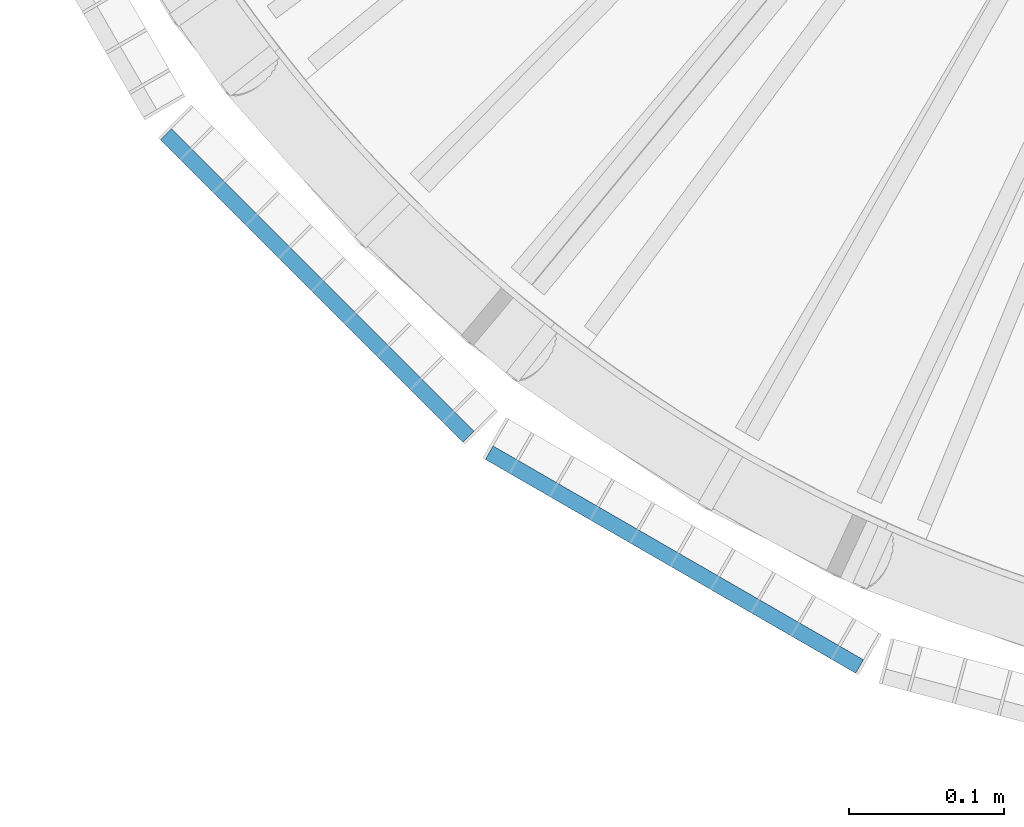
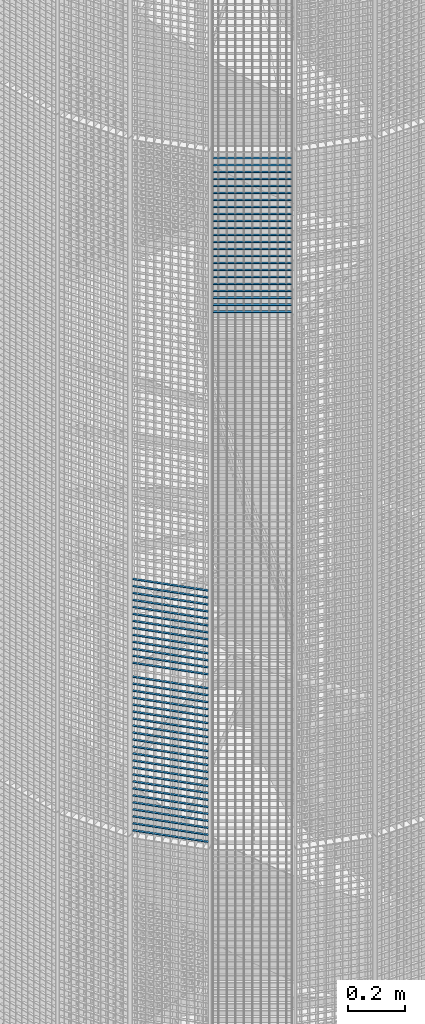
# One storey, part 358 of 1183: 59 beams, 2 elements without a shape of their own.
"""IFC2X3 building model written with IfcOpenShell, lengths in millimetres."""

import ifcopenshell
import ifcopenshell.guid

model = None  # the IFC model being written
_history = None  # IfcOwnerHistory: only IFC2X3 demands one
_inside = {}  # id of a spatial element -> (the spatial element, [elements in it])
_under = {}  # id of a project, library or spatial element -> (it, [spatial elements below it])
_declared = {}  # id of a project -> (the project, [libraries it declares])
_typed = {}  # id of a type object -> (the type object, [elements of that type])
_made_of = {}  # id of a material, layer set ... -> (it, [elements and type objects made of it])


def new_model(schema):
    """Start an empty IFC model of exactly this schema.

    Asked for "IFC4X3", IfcOpenShell would pick the latest addendum, in which some entities
    have other attributes; the version numbers below select the first issue.
    IFC2X3 requires an IfcOwnerHistory on every rooted entity: one is made here for all.
    """
    global model, _history
    if schema == "IFC4X3":
        model = ifcopenshell.file(schema_version=(4, 3, 0, 0))
    else:
        model = ifcopenshell.file(schema=schema)
    _inside.clear()
    _under.clear()
    _declared.clear()
    _typed.clear()
    _made_of.clear()
    _history = None
    if model.schema == "IFC2X3":
        org = make("IfcOrganization", Name="unknown")
        user = make(
            "IfcPersonAndOrganization",
            ThePerson=make("IfcPerson", FamilyName="unknown"),
            TheOrganization=org,
        )
        app = make(
            "IfcApplication",
            ApplicationDeveloper=org,
            Version="unknown",
            ApplicationFullName="unknown",
            ApplicationIdentifier="unknown",
        )
        _history = make(
            "IfcOwnerHistory",
            OwningUser=user,
            OwningApplication=app,
            ChangeAction="ADDED",
            CreationDate=0,
        )
    return model


def make(cls, **values):
    """One entity of the class cls with the attributes given. An attribute that is None is left unset."""
    return model.create_entity(
        cls, **{name: value for name, value in values.items() if value is not None}
    )


def rooted(cls, **values):
    """An entity with a GlobalId (a new one), such as an element, a storey or a relation."""
    return make(cls, GlobalId=ifcopenshell.guid.new(), OwnerHistory=_history, **values)


def si_unit(unit_type, name, prefix=None):
    """IfcSIUnit, for example si_unit("LENGTHUNIT", "METRE", prefix="MILLI")."""
    return make("IfcSIUnit", UnitType=unit_type, Prefix=prefix, Name=name)


def assignment(units):
    """IfcUnitAssignment: the units of a project."""
    return None if units is None else make("IfcUnitAssignment", Units=units)


def point(xyz):
    """IfcCartesianPoint."""
    return None if xyz is None else make("IfcCartesianPoint", Coordinates=xyz)


def direction(xyz):
    """IfcDirection."""
    return None if xyz is None else make("IfcDirection", DirectionRatios=xyz)


def frame(location, z_axis=None, x_axis=None):
    """IfcAxis2Placement3D, a coordinate frame: its origin and axes. An axis left out is left unset."""
    return make(
        "IfcAxis2Placement3D",
        Location=point(location),
        Axis=direction(z_axis),
        RefDirection=direction(x_axis),
    )


def frame_2d(location, x_axis=None):
    """IfcAxis2Placement2D, a coordinate frame in the plane: its origin and x axis."""
    return make(
        "IfcAxis2Placement2D", Location=point(location), RefDirection=direction(x_axis)
    )


def origin_with_axes():
    """The frame at (0, 0, 0) with the z axis (0, 0, 1) and the x axis (1, 0, 0) written out."""
    return frame((0.0, 0.0, 0.0), z_axis=(0.0, 0.0, 1.0), x_axis=(1.0, 0.0, 0.0))


def origin_2d_with_axis():
    """The frame at (0, 0) in the plane with the x axis (1, 0) written out."""
    return frame_2d((0.0, 0.0), x_axis=(1.0, 0.0))


def place(relative_to, where):
    """IfcLocalPlacement: puts the frame where relative to a parent placement (None: the world)."""
    return make(
        "IfcLocalPlacement", PlacementRelTo=relative_to, RelativePlacement=where
    )


def context(
    kind, dimensions, precision=None, world=None, true_north=None, identifier=None
):
    """IfcGeometricRepresentationContext, for example the 3D "Model" context."""
    return make(
        "IfcGeometricRepresentationContext",
        ContextIdentifier=identifier,
        ContextType=kind,
        CoordinateSpaceDimension=dimensions,
        Precision=precision,
        WorldCoordinateSystem=world,
        TrueNorth=true_north,
    )


def subcontext(parent, identifier, kind, view, scale=None):
    """IfcGeometricRepresentationSubContext, for example "Body" below "Model"."""
    return make(
        "IfcGeometricRepresentationSubContext",
        ContextIdentifier=identifier,
        ContextType=kind,
        ParentContext=parent,
        TargetScale=scale,
        TargetView=view,
    )


def project(units=None, contexts=None):
    """IfcProject with its units and contexts."""
    return rooted(
        "IfcProject",
        Name="project",
        RepresentationContexts=contexts,
        UnitsInContext=assignment(units),
    )


def spatial(cls, under=None, at=None, **own):
    """A site, building, storey or space (cls), placed at a placement, below another one or the project."""
    s = rooted(cls, ObjectPlacement=at, **own)
    if under is not None:
        _under.setdefault(under.id(), (under, []))[1].append(s)
    return s


def profile(cls, at=None, kind="AREA", **sizes):
    """A parametric profile (cls). Its sizes go by their IFC names, for example OverallWidth=200.0."""
    return make(cls, ProfileType=kind, Position=at, **sizes)


def rectangle(**sizes):
    """IfcRectangleProfileDef."""
    return profile("IfcRectangleProfileDef", **sizes)


def extrude(swept, where, along, depth):
    """IfcExtrudedAreaSolid: the profile swept, set in the frame where, extruded along a direction by depth."""
    return make(
        "IfcExtrudedAreaSolid",
        SweptArea=swept,
        Position=where,
        ExtrudedDirection=direction(along),
        Depth=depth,
    )


def shape(context_of_items, identifier, shape_type, items):
    """IfcShapeRepresentation: the items that make up one representation, for example the "Body"."""
    return make(
        "IfcShapeRepresentation",
        ContextOfItems=context_of_items,
        RepresentationIdentifier=identifier,
        RepresentationType=shape_type,
        Items=items,
    )


def material(Name=None, Category=None):
    """IfcMaterial."""
    return make("IfcMaterial", Name=Name, Category=Category)


def made_of(thing, what):
    """Note that an element or type object is made of a material, layer set ...; save() writes the relation."""
    if what is not None:
        _made_of.setdefault(what.id(), (what, []))[1].append(thing)
    return thing


def type_object(cls, material=None, **own):
    """A type object (cls), such as IfcWallType, which elements share."""
    return made_of(rooted(cls, **own), material)


def element(
    cls,
    number,
    at=None,
    inside=None,
    cuts=None,
    type_object=None,
    material=None,
    context=None,
    identifier="Body",
    shape_type=None,
    held_by="IfcProductDefinitionShape",
    body=None,
    shapes=None,
    **own,
):
    """One element of the class cls, such as IfcWall. Its Tag is "e" and its number.

    at: its placement. inside: the storey or other place that contains it. cuts: it is an
    opening in that element (IfcRelVoidsElement). A single representation is given by context,
    identifier, shape_type and body (its items); several are given by shapes. held_by: the class
    of the entity that holds the representations. save() writes the other relations.
    """
    e = rooted(cls, Tag="e%d" % number, ObjectPlacement=at, **own)
    if body is not None:
        shapes = [shape(context, identifier, shape_type, body)]
    if shapes is not None:
        e.Representation = make(held_by, Representations=shapes)
    if inside is not None:
        _inside.setdefault(inside.id(), (inside, []))[1].append(e)
    if cuts is not None:
        rooted(
            "IfcRelVoidsElement", RelatingBuildingElement=cuts, RelatedOpeningElement=e
        )
    if type_object is not None:
        _typed.setdefault(type_object.id(), (type_object, []))[1].append(e)
    return made_of(e, material)


def aggregate(whole, parts):
    """IfcRelAggregates: a whole, such as a stair, and the parts it consists of."""
    return rooted("IfcRelAggregates", RelatingObject=whole, RelatedObjects=parts)


def save(model, path):
    """Write the relations noted so far, then the file.

    IfcRelAggregates (storeys below a building ...), IfcRelContainedInSpatialStructure (elements
    in a storey), IfcRelDefinesByType, IfcRelAssociatesMaterial and IfcRelDeclares: one each for
    every whole, place, type object, material and project.
    """
    for whole, parts in _under.values():
        aggregate(whole, parts)
    for where, things in _inside.values():
        rooted(
            "IfcRelContainedInSpatialStructure",
            RelatedElements=things,
            RelatingStructure=where,
        )
    for kind, things in _typed.values():
        rooted("IfcRelDefinesByType", RelatedObjects=things, RelatingType=kind)
    for what, things in _made_of.values():
        rooted("IfcRelAssociatesMaterial", RelatedObjects=things, RelatingMaterial=what)
    for by, libraries in _declared.values():
        rooted("IfcRelDeclares", RelatingContext=by, RelatedDefinitions=libraries)
    model.write(path)


model = new_model("IFC2X3")

# Units and contexts
model_context = context("Model", 3, precision=1e-05, world=origin_with_axes())
body_context = subcontext(model_context, "Body", "Model", "MODEL_VIEW")
ifc_project = project(units=[si_unit("LENGTHUNIT", "METRE", prefix="MILLI"), si_unit("AREAUNIT", "SQUARE_METRE"), si_unit("VOLUMEUNIT", "CUBIC_METRE"), si_unit("MASSUNIT", "GRAM", prefix="KILO"), si_unit("TIMEUNIT", "SECOND"), si_unit("PLANEANGLEUNIT", "RADIAN"), si_unit("SOLIDANGLEUNIT", "STERADIAN"), si_unit("THERMODYNAMICTEMPERATUREUNIT", "DEGREE_CELSIUS"), si_unit("LUMINOUSINTENSITYUNIT", "LUMEN")], contexts=[model_context])

# Site, building, storey
site_placement = place(None, origin_with_axes())
site = spatial("IfcSite", under=ifc_project, at=site_placement, Name="Undefined", CompositionType="ELEMENT")
building_placement = place(site_placement, origin_with_axes())
building = spatial("IfcBuilding", under=site, at=building_placement, Name="Undefined", CompositionType="ELEMENT")
storey_placement = place(building_placement, origin_with_axes())
storey = spatial("IfcBuildingStorey", under=building, at=storey_placement, Name="Undefined", CompositionType="ELEMENT", Elevation=0.0)

# Assembly, beams
assembly_1_placement = place(storey_placement, origin_with_axes())
assembly_1 = element("IfcElementAssembly", 1, at=assembly_1_placement, inside=storey, Name="BORDURE", AssemblyPlace="NOTDEFINED", PredefinedType="NOTDEFINED")
ifc_material = material(Name="STEEL/S235JR")
beam_type = type_object("IfcBeamType", Name="PL2*10", PredefinedType="NOTDEFINED")
beam_1_placement = place(assembly_1_placement, frame((20910.2286510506, -884.927168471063, 9690.0), z_axis=(-0.70710678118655, -0.707106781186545, 0.0), x_axis=(-0.707106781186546, 0.707106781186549, 0.0)))
beam_1 = element("IfcBeam", 2, at=beam_1_placement, type_object=beam_type, material=ifc_material, Name="ENTRETOISE", context=body_context, shape_type="SweptSolid", body=[
    extrude(rectangle(XDim=2.0, YDim=10.0, at=origin_2d_with_axis()), frame((275.999999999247, 9.09494701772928e-13, 1.53210777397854e-14), z_axis=(-1.0, 0.0, 0.0), x_axis=(0.0, -1.0, 0.0)), (0.0, 0.0, 1.0), 276.0),
])
beam_2_placement = place(assembly_1_placement, frame((20910.2286510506, -884.927168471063, 9750.0), z_axis=(-0.70710678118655, -0.707106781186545, 0.0), x_axis=(-0.707106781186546, 0.707106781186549, 0.0)))
beam_2 = element("IfcBeam", 3, at=beam_2_placement, type_object=beam_type, material=ifc_material, Name="ENTRETOISE", context=body_context, shape_type="SweptSolid", body=[
    extrude(rectangle(XDim=2.0, YDim=10.0, at=origin_2d_with_axis()), frame((275.999999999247, 9.09494701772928e-13, 1.53210777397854e-14), z_axis=(-1.0, 0.0, 0.0), x_axis=(0.0, -1.0, 0.0)), (0.0, 0.0, 1.0), 276.0),
])
beam_3_placement = place(assembly_1_placement, frame((20910.2286510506, -884.927168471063, 9660.0), z_axis=(-0.70710678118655, -0.707106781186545, 0.0), x_axis=(-0.707106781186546, 0.707106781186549, 0.0)))
beam_3 = element("IfcBeam", 4, at=beam_3_placement, type_object=beam_type, material=ifc_material, Name="ENTRETOISE", context=body_context, shape_type="SweptSolid", body=[
    extrude(rectangle(XDim=2.0, YDim=10.0, at=origin_2d_with_axis()), frame((275.999999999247, 9.09494701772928e-13, 1.53210777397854e-14), z_axis=(-1.0, 0.0, 0.0), x_axis=(0.0, -1.0, 0.0)), (0.0, 0.0, 1.0), 276.0),
])
beam_4_placement = place(assembly_1_placement, frame((20910.2286510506, -884.927168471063, 9630.0), z_axis=(-0.70710678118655, -0.707106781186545, 0.0), x_axis=(-0.707106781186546, 0.707106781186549, 0.0)))
beam_4 = element("IfcBeam", 5, at=beam_4_placement, type_object=beam_type, material=ifc_material, Name="ENTRETOISE", context=body_context, shape_type="SweptSolid", body=[
    extrude(rectangle(XDim=2.0, YDim=10.0, at=origin_2d_with_axis()), frame((275.999999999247, 9.09494701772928e-13, 1.53210777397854e-14), z_axis=(-1.0, 0.0, 0.0), x_axis=(0.0, -1.0, 0.0)), (0.0, 0.0, 1.0), 276.0),
])
beam_5_placement = place(assembly_1_placement, frame((20910.2286510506, -884.927168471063, 9780.0), z_axis=(-0.70710678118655, -0.707106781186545, 0.0), x_axis=(-0.707106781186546, 0.707106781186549, 0.0)))
beam_5 = element("IfcBeam", 6, at=beam_5_placement, type_object=beam_type, material=ifc_material, Name="ENTRETOISE", context=body_context, shape_type="SweptSolid", body=[
    extrude(rectangle(XDim=2.0, YDim=10.0, at=origin_2d_with_axis()), frame((275.999999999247, 9.09494701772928e-13, 1.53210777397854e-14), z_axis=(-1.0, 0.0, 0.0), x_axis=(0.0, -1.0, 0.0)), (0.0, 0.0, 1.0), 276.0),
])
beam_6_placement = place(assembly_1_placement, frame((20910.2286510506, -884.927168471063, 9600.0), z_axis=(-0.70710678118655, -0.707106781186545, 0.0), x_axis=(-0.707106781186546, 0.707106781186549, 0.0)))
beam_6 = element("IfcBeam", 7, at=beam_6_placement, type_object=beam_type, material=ifc_material, Name="ENTRETOISE", context=body_context, shape_type="SweptSolid", body=[
    extrude(rectangle(XDim=2.0, YDim=10.0, at=origin_2d_with_axis()), frame((275.999999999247, 9.09494701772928e-13, 1.53210777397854e-14), z_axis=(-1.0, 0.0, 0.0), x_axis=(0.0, -1.0, 0.0)), (0.0, 0.0, 1.0), 276.0),
])
beam_7_placement = place(assembly_1_placement, frame((20910.2286510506, -884.927168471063, 9810.0), z_axis=(-0.70710678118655, -0.707106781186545, 0.0), x_axis=(-0.707106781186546, 0.707106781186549, 0.0)))
beam_7 = element("IfcBeam", 8, at=beam_7_placement, type_object=beam_type, material=ifc_material, Name="ENTRETOISE", context=body_context, shape_type="SweptSolid", body=[
    extrude(rectangle(XDim=2.0, YDim=10.0, at=origin_2d_with_axis()), frame((275.999999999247, 9.09494701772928e-13, 1.53210777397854e-14), z_axis=(-1.0, 0.0, 0.0), x_axis=(0.0, -1.0, 0.0)), (0.0, 0.0, 1.0), 276.0),
])
beam_8_placement = place(assembly_1_placement, frame((20910.2286510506, -884.927168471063, 9570.0), z_axis=(-0.70710678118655, -0.707106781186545, 0.0), x_axis=(-0.707106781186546, 0.707106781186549, 0.0)))
beam_8 = element("IfcBeam", 9, at=beam_8_placement, type_object=beam_type, material=ifc_material, Name="ENTRETOISE", context=body_context, shape_type="SweptSolid", body=[
    extrude(rectangle(XDim=2.0, YDim=10.0, at=origin_2d_with_axis()), frame((275.999999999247, 9.09494701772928e-13, 1.53210777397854e-14), z_axis=(-1.0, 0.0, 0.0), x_axis=(0.0, -1.0, 0.0)), (0.0, 0.0, 1.0), 276.0),
])
beam_9_placement = place(assembly_1_placement, frame((20910.2286510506, -884.927168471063, 9540.0), z_axis=(-0.70710678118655, -0.707106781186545, 0.0), x_axis=(-0.707106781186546, 0.707106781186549, 0.0)))
beam_9 = element("IfcBeam", 10, at=beam_9_placement, type_object=beam_type, material=ifc_material, Name="ENTRETOISE", context=body_context, shape_type="SweptSolid", body=[
    extrude(rectangle(XDim=2.0, YDim=10.0, at=origin_2d_with_axis()), frame((275.999999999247, 9.09494701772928e-13, 1.53210777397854e-14), z_axis=(-1.0, 0.0, 0.0), x_axis=(0.0, -1.0, 0.0)), (0.0, 0.0, 1.0), 276.0),
])
beam_10_placement = place(assembly_1_placement, frame((20910.2286510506, -884.927168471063, 9840.0), z_axis=(-0.70710678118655, -0.707106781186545, 0.0), x_axis=(-0.707106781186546, 0.707106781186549, 0.0)))
beam_10 = element("IfcBeam", 11, at=beam_10_placement, type_object=beam_type, material=ifc_material, Name="ENTRETOISE", context=body_context, shape_type="SweptSolid", body=[
    extrude(rectangle(XDim=2.0, YDim=10.0, at=origin_2d_with_axis()), frame((275.999999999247, 9.09494701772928e-13, 1.53210777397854e-14), z_axis=(-1.0, 0.0, 0.0), x_axis=(0.0, -1.0, 0.0)), (0.0, 0.0, 1.0), 276.0),
])
beam_11_placement = place(assembly_1_placement, frame((20910.2286510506, -884.927168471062, 9510.0), z_axis=(-0.70710678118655, -0.707106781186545, 0.0), x_axis=(-0.707106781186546, 0.707106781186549, 0.0)))
beam_11 = element("IfcBeam", 12, at=beam_11_placement, type_object=beam_type, material=ifc_material, Name="ENTRETOISE", context=body_context, shape_type="SweptSolid", body=[
    extrude(rectangle(XDim=2.0, YDim=10.0, at=origin_2d_with_axis()), frame((275.999999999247, 9.09494701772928e-13, 1.53210777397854e-14), z_axis=(-1.0, 0.0, 0.0), x_axis=(0.0, -1.0, 0.0)), (0.0, 0.0, 1.0), 276.0),
])
beam_12_placement = place(assembly_1_placement, frame((20910.2286510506, -884.927168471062, 9480.0), z_axis=(-0.70710678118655, -0.707106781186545, 0.0), x_axis=(-0.707106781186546, 0.707106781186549, 0.0)))
beam_12 = element("IfcBeam", 13, at=beam_12_placement, type_object=beam_type, material=ifc_material, Name="ENTRETOISE", context=body_context, shape_type="SweptSolid", body=[
    extrude(rectangle(XDim=2.0, YDim=10.0, at=origin_2d_with_axis()), frame((275.999999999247, 9.09494701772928e-13, 1.53210777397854e-14), z_axis=(-1.0, 0.0, 0.0), x_axis=(0.0, -1.0, 0.0)), (0.0, 0.0, 1.0), 276.0),
])
beam_13_placement = place(assembly_1_placement, frame((20910.2286510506, -884.927168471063, 9870.0), z_axis=(-0.70710678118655, -0.707106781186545, 0.0), x_axis=(-0.707106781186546, 0.707106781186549, 0.0)))
beam_13 = element("IfcBeam", 14, at=beam_13_placement, type_object=beam_type, material=ifc_material, Name="ENTRETOISE", context=body_context, shape_type="SweptSolid", body=[
    extrude(rectangle(XDim=2.0, YDim=10.0, at=origin_2d_with_axis()), frame((275.999999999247, 9.09494701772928e-13, 1.53210777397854e-14), z_axis=(-1.0, 0.0, 0.0), x_axis=(0.0, -1.0, 0.0)), (0.0, 0.0, 1.0), 276.0),
])
beam_14_placement = place(assembly_1_placement, frame((20910.2286510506, -884.927168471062, 9450.0), z_axis=(-0.70710678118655, -0.707106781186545, 0.0), x_axis=(-0.707106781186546, 0.707106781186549, 0.0)))
beam_14 = element("IfcBeam", 15, at=beam_14_placement, type_object=beam_type, material=ifc_material, Name="ENTRETOISE", context=body_context, shape_type="SweptSolid", body=[
    extrude(rectangle(XDim=2.0, YDim=10.0, at=origin_2d_with_axis()), frame((275.999999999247, 9.09494701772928e-13, 1.53210777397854e-14), z_axis=(-1.0, 0.0, 0.0), x_axis=(0.0, -1.0, 0.0)), (0.0, 0.0, 1.0), 276.0),
])
beam_15_placement = place(assembly_1_placement, frame((20910.2286510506, -884.927168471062, 9420.0), z_axis=(-0.70710678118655, -0.707106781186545, 0.0), x_axis=(-0.707106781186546, 0.707106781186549, 0.0)))
beam_15 = element("IfcBeam", 16, at=beam_15_placement, type_object=beam_type, material=ifc_material, Name="ENTRETOISE", context=body_context, shape_type="SweptSolid", body=[
    extrude(rectangle(XDim=2.0, YDim=10.0, at=origin_2d_with_axis()), frame((275.999999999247, 9.09494701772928e-13, 1.53210777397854e-14), z_axis=(-1.0, 0.0, 0.0), x_axis=(0.0, -1.0, 0.0)), (0.0, 0.0, 1.0), 276.0),
])
beam_16_placement = place(assembly_1_placement, frame((20910.2286510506, -884.927168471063, 9900.0), z_axis=(-0.70710678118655, -0.707106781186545, 0.0), x_axis=(-0.707106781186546, 0.707106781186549, 0.0)))
beam_16 = element("IfcBeam", 17, at=beam_16_placement, type_object=beam_type, material=ifc_material, Name="ENTRETOISE", context=body_context, shape_type="SweptSolid", body=[
    extrude(rectangle(XDim=2.0, YDim=10.0, at=origin_2d_with_axis()), frame((275.999999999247, 9.09494701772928e-13, 1.53210777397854e-14), z_axis=(-1.0, 0.0, 0.0), x_axis=(0.0, -1.0, 0.0)), (0.0, 0.0, 1.0), 276.0),
])
beam_17_placement = place(assembly_1_placement, frame((20910.2286510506, -884.927168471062, 9390.0), z_axis=(-0.70710678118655, -0.707106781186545, 0.0), x_axis=(-0.707106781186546, 0.707106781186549, 0.0)))
beam_17 = element("IfcBeam", 18, at=beam_17_placement, type_object=beam_type, material=ifc_material, Name="ENTRETOISE", context=body_context, shape_type="SweptSolid", body=[
    extrude(rectangle(XDim=2.0, YDim=10.0, at=origin_2d_with_axis()), frame((275.999999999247, 9.09494701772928e-13, 1.53210777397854e-14), z_axis=(-1.0, 0.0, 0.0), x_axis=(0.0, -1.0, 0.0)), (0.0, 0.0, 1.0), 276.0),
])
beam_18_placement = place(assembly_1_placement, frame((20910.2286510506, -884.927168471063, 9930.0), z_axis=(-0.70710678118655, -0.707106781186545, 0.0), x_axis=(-0.707106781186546, 0.707106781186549, 0.0)))
beam_18 = element("IfcBeam", 19, at=beam_18_placement, type_object=beam_type, material=ifc_material, Name="ENTRETOISE", context=body_context, shape_type="SweptSolid", body=[
    extrude(rectangle(XDim=2.0, YDim=10.0, at=origin_2d_with_axis()), frame((275.999999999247, 9.09494701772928e-13, 1.53210777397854e-14), z_axis=(-1.0, 0.0, 0.0), x_axis=(0.0, -1.0, 0.0)), (0.0, 0.0, 1.0), 276.0),
])
beam_19_placement = place(assembly_1_placement, frame((20910.2286510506, -884.927168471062, 9360.0), z_axis=(-0.70710678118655, -0.707106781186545, 0.0), x_axis=(-0.707106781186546, 0.707106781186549, 0.0)))
beam_19 = element("IfcBeam", 20, at=beam_19_placement, type_object=beam_type, material=ifc_material, Name="ENTRETOISE", context=body_context, shape_type="SweptSolid", body=[
    extrude(rectangle(XDim=2.0, YDim=10.0, at=origin_2d_with_axis()), frame((275.999999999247, 9.09494701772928e-13, 1.53210777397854e-14), z_axis=(-1.0, 0.0, 0.0), x_axis=(0.0, -1.0, 0.0)), (0.0, 0.0, 1.0), 276.0),
])
beam_20_placement = place(assembly_1_placement, frame((20910.2286510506, -884.927168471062, 9330.0), z_axis=(-0.70710678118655, -0.707106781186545, 0.0), x_axis=(-0.707106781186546, 0.707106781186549, 0.0)))
beam_20 = element("IfcBeam", 21, at=beam_20_placement, type_object=beam_type, material=ifc_material, Name="ENTRETOISE", context=body_context, shape_type="SweptSolid", body=[
    extrude(rectangle(XDim=2.0, YDim=10.0, at=origin_2d_with_axis()), frame((275.999999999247, 9.09494701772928e-13, 1.53210777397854e-14), z_axis=(-1.0, 0.0, 0.0), x_axis=(0.0, -1.0, 0.0)), (0.0, 0.0, 1.0), 276.0),
])
beam_21_placement = place(assembly_1_placement, frame((20910.2286510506, -884.927168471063, 9960.0), z_axis=(-0.70710678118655, -0.707106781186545, 0.0), x_axis=(-0.707106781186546, 0.707106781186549, 0.0)))
beam_21 = element("IfcBeam", 22, at=beam_21_placement, type_object=beam_type, material=ifc_material, Name="ENTRETOISE", context=body_context, shape_type="SweptSolid", body=[
    extrude(rectangle(XDim=2.0, YDim=10.0, at=origin_2d_with_axis()), frame((275.999999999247, 9.09494701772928e-13, 1.53210777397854e-14), z_axis=(-1.0, 0.0, 0.0), x_axis=(0.0, -1.0, 0.0)), (0.0, 0.0, 1.0), 276.0),
])
beam_22_placement = place(assembly_1_placement, frame((20910.2286510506, -884.927168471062, 9300.0), z_axis=(-0.70710678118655, -0.707106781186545, 0.0), x_axis=(-0.707106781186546, 0.707106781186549, 0.0)))
beam_22 = element("IfcBeam", 23, at=beam_22_placement, type_object=beam_type, material=ifc_material, Name="ENTRETOISE", context=body_context, shape_type="SweptSolid", body=[
    extrude(rectangle(XDim=2.0, YDim=10.0, at=origin_2d_with_axis()), frame((275.999999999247, 9.09494701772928e-13, 1.53210777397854e-14), z_axis=(-1.0, 0.0, 0.0), x_axis=(0.0, -1.0, 0.0)), (0.0, 0.0, 1.0), 276.0),
])
beam_23_placement = place(assembly_1_placement, frame((20910.2286510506, -884.927168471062, 9270.0), z_axis=(-0.70710678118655, -0.707106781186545, 0.0), x_axis=(-0.707106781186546, 0.707106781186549, 0.0)))
beam_23 = element("IfcBeam", 24, at=beam_23_placement, type_object=beam_type, material=ifc_material, Name="ENTRETOISE", context=body_context, shape_type="SweptSolid", body=[
    extrude(rectangle(XDim=2.0, YDim=10.0, at=origin_2d_with_axis()), frame((275.999999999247, 9.09494701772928e-13, 1.53210777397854e-14), z_axis=(-1.0, 0.0, 0.0), x_axis=(0.0, -1.0, 0.0)), (0.0, 0.0, 1.0), 276.0),
])
beam_24_placement = place(assembly_1_placement, frame((20910.2286510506, -884.927168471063, 9990.0), z_axis=(-0.70710678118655, -0.707106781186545, 0.0), x_axis=(-0.707106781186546, 0.707106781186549, 0.0)))
beam_24 = element("IfcBeam", 25, at=beam_24_placement, type_object=beam_type, material=ifc_material, Name="ENTRETOISE", context=body_context, shape_type="SweptSolid", body=[
    extrude(rectangle(XDim=2.0, YDim=10.0, at=origin_2d_with_axis()), frame((275.999999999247, 9.09494701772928e-13, 1.53210777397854e-14), z_axis=(-1.0, 0.0, 0.0), x_axis=(0.0, -1.0, 0.0)), (0.0, 0.0, 1.0), 276.0),
])
beam_25_placement = place(assembly_1_placement, frame((20910.2286510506, -884.927168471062, 9240.0), z_axis=(-0.70710678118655, -0.707106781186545, 0.0), x_axis=(-0.707106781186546, 0.707106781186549, 0.0)))
beam_25 = element("IfcBeam", 26, at=beam_25_placement, type_object=beam_type, material=ifc_material, Name="ENTRETOISE", context=body_context, shape_type="SweptSolid", body=[
    extrude(rectangle(XDim=2.0, YDim=10.0, at=origin_2d_with_axis()), frame((275.999999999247, 9.09494701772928e-13, 1.53210777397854e-14), z_axis=(-1.0, 0.0, 0.0), x_axis=(0.0, -1.0, 0.0)), (0.0, 0.0, 1.0), 276.0),
])
beam_26_placement = place(assembly_1_placement, frame((20910.2286510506, -884.927168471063, 10020.0), z_axis=(-0.70710678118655, -0.707106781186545, 0.0), x_axis=(-0.707106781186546, 0.707106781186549, 0.0)))
beam_26 = element("IfcBeam", 27, at=beam_26_placement, type_object=beam_type, material=ifc_material, Name="ENTRETOISE", context=body_context, shape_type="SweptSolid", body=[
    extrude(rectangle(XDim=2.0, YDim=10.0, at=origin_2d_with_axis()), frame((275.999999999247, 9.09494701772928e-13, 1.53210777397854e-14), z_axis=(-1.0, 0.0, 0.0), x_axis=(0.0, -1.0, 0.0)), (0.0, 0.0, 1.0), 276.0),
])
beam_27_placement = place(assembly_1_placement, frame((20910.2286510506, -884.927168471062, 9210.0), z_axis=(-0.70710678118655, -0.707106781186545, 0.0), x_axis=(-0.707106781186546, 0.707106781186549, 0.0)))
beam_27 = element("IfcBeam", 28, at=beam_27_placement, type_object=beam_type, material=ifc_material, Name="ENTRETOISE", context=body_context, shape_type="SweptSolid", body=[
    extrude(rectangle(XDim=2.0, YDim=10.0, at=origin_2d_with_axis()), frame((275.999999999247, 9.09494701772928e-13, 1.53210777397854e-14), z_axis=(-1.0, 0.0, 0.0), x_axis=(0.0, -1.0, 0.0)), (0.0, 0.0, 1.0), 276.0),
])
beam_28_placement = place(assembly_1_placement, frame((20910.2286510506, -884.927168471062, 9180.0), z_axis=(-0.70710678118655, -0.707106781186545, 0.0), x_axis=(-0.707106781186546, 0.707106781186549, 0.0)))
beam_28 = element("IfcBeam", 29, at=beam_28_placement, type_object=beam_type, material=ifc_material, Name="ENTRETOISE", context=body_context, shape_type="SweptSolid", body=[
    extrude(rectangle(XDim=2.0, YDim=10.0, at=origin_2d_with_axis()), frame((275.999999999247, 9.09494701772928e-13, 1.53210777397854e-14), z_axis=(-1.0, 0.0, 0.0), x_axis=(0.0, -1.0, 0.0)), (0.0, 0.0, 1.0), 276.0),
])
beam_29_placement = place(assembly_1_placement, frame((20910.2286510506, -884.927168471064, 10050.0), z_axis=(-0.70710678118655, -0.707106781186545, 0.0), x_axis=(-0.707106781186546, 0.707106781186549, 0.0)))
beam_29 = element("IfcBeam", 30, at=beam_29_placement, type_object=beam_type, material=ifc_material, Name="ENTRETOISE", context=body_context, shape_type="SweptSolid", body=[
    extrude(rectangle(XDim=2.0, YDim=10.0, at=origin_2d_with_axis()), frame((275.999999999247, 9.09494701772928e-13, 1.53210777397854e-14), z_axis=(-1.0, 0.0, 0.0), x_axis=(0.0, -1.0, 0.0)), (0.0, 0.0, 1.0), 276.0),
])
beam_30_placement = place(assembly_1_placement, frame((20910.2286510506, -884.927168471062, 9150.0), z_axis=(-0.70710678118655, -0.707106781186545, 0.0), x_axis=(-0.707106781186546, 0.707106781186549, 0.0)))
beam_30 = element("IfcBeam", 31, at=beam_30_placement, type_object=beam_type, material=ifc_material, Name="ENTRETOISE", context=body_context, shape_type="SweptSolid", body=[
    extrude(rectangle(XDim=2.0, YDim=10.0, at=origin_2d_with_axis()), frame((275.999999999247, 9.09494701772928e-13, 1.53210777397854e-14), z_axis=(-1.0, 0.0, 0.0), x_axis=(0.0, -1.0, 0.0)), (0.0, 0.0, 1.0), 276.0),
])
beam_31_placement = place(assembly_1_placement, frame((20910.2286510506, -884.927168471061, 9120.0), z_axis=(-0.70710678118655, -0.707106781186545, 0.0), x_axis=(-0.707106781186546, 0.707106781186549, 0.0)))
beam_31 = element("IfcBeam", 32, at=beam_31_placement, type_object=beam_type, material=ifc_material, Name="ENTRETOISE", context=body_context, shape_type="SweptSolid", body=[
    extrude(rectangle(XDim=2.0, YDim=10.0, at=origin_2d_with_axis()), frame((275.999999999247, 9.09494701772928e-13, 1.53210777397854e-14), z_axis=(-1.0, 0.0, 0.0), x_axis=(0.0, -1.0, 0.0)), (0.0, 0.0, 1.0), 276.0),
])
beam_32_placement = place(assembly_1_placement, frame((20910.2286510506, -884.927168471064, 10080.0), z_axis=(-0.70710678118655, -0.707106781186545, 0.0), x_axis=(-0.707106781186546, 0.707106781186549, 0.0)))
beam_32 = element("IfcBeam", 33, at=beam_32_placement, type_object=beam_type, material=ifc_material, Name="ENTRETOISE", context=body_context, shape_type="SweptSolid", body=[
    extrude(rectangle(XDim=2.0, YDim=10.0, at=origin_2d_with_axis()), frame((275.999999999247, 9.09494701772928e-13, 1.53210777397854e-14), z_axis=(-1.0, 0.0, 0.0), x_axis=(0.0, -1.0, 0.0)), (0.0, 0.0, 1.0), 276.0),
])
beam_33_placement = place(assembly_1_placement, frame((20910.2286510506, -884.927168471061, 9090.0), z_axis=(-0.70710678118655, -0.707106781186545, 0.0), x_axis=(-0.707106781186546, 0.707106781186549, 0.0)))
beam_33 = element("IfcBeam", 34, at=beam_33_placement, type_object=beam_type, material=ifc_material, Name="ENTRETOISE", context=body_context, shape_type="SweptSolid", body=[
    extrude(rectangle(XDim=2.0, YDim=10.0, at=origin_2d_with_axis()), frame((275.999999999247, 9.09494701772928e-13, 1.53210777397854e-14), z_axis=(-1.0, 0.0, 0.0), x_axis=(0.0, -1.0, 0.0)), (0.0, 0.0, 1.0), 276.0),
])
beam_34_placement = place(assembly_1_placement, frame((20910.2286510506, -884.927168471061, 9060.0), z_axis=(-0.70710678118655, -0.707106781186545, 0.0), x_axis=(-0.707106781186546, 0.707106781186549, 0.0)))
beam_34 = element("IfcBeam", 35, at=beam_34_placement, type_object=beam_type, material=ifc_material, Name="ENTRETOISE", context=body_context, shape_type="SweptSolid", body=[
    extrude(rectangle(XDim=2.0, YDim=10.0, at=origin_2d_with_axis()), frame((275.999999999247, 9.09494701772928e-13, 1.53210777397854e-14), z_axis=(-1.0, 0.0, 0.0), x_axis=(0.0, -1.0, 0.0)), (0.0, 0.0, 1.0), 276.0),
])
beam_35_placement = place(assembly_1_placement, frame((20910.2286510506, -884.927168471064, 10110.0), z_axis=(-0.70710678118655, -0.707106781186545, 0.0), x_axis=(-0.707106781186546, 0.707106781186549, 0.0)))
beam_35 = element("IfcBeam", 36, at=beam_35_placement, type_object=beam_type, material=ifc_material, Name="ENTRETOISE", context=body_context, shape_type="SweptSolid", body=[
    extrude(rectangle(XDim=2.0, YDim=10.0, at=origin_2d_with_axis()), frame((275.999999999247, 9.09494701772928e-13, 1.53210777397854e-14), z_axis=(-1.0, 0.0, 0.0), x_axis=(0.0, -1.0, 0.0)), (0.0, 0.0, 1.0), 276.0),
])
beam_36_placement = place(assembly_1_placement, frame((20910.2286510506, -884.92716847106, 9030.0), z_axis=(-0.70710678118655, -0.707106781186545, 0.0), x_axis=(-0.707106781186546, 0.707106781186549, 0.0)))
beam_36 = element("IfcBeam", 37, at=beam_36_placement, type_object=beam_type, material=ifc_material, Name="ENTRETOISE", context=body_context, shape_type="SweptSolid", body=[
    extrude(rectangle(XDim=2.0, YDim=10.0, at=origin_2d_with_axis()), frame((275.999999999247, 9.09494701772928e-13, 1.53210777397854e-14), z_axis=(-1.0, 0.0, 0.0), x_axis=(0.0, -1.0, 0.0)), (0.0, 0.0, 1.0), 276.0),
])
aggregate(assembly_1, [beam_1, beam_2, beam_3, beam_4, beam_5, beam_6, beam_7, beam_8, beam_9, beam_10, beam_11, beam_12, beam_13, beam_14, beam_15, beam_16, beam_17, beam_18, beam_19, beam_20, beam_21, beam_22, beam_23, beam_24, beam_25, beam_26, beam_27, beam_28, beam_29, beam_30, beam_31, beam_32, beam_33, beam_34, beam_35, beam_36])

assembly_2_placement = place(storey_placement, origin_with_axes())
assembly_2 = element("IfcElementAssembly", 38, at=assembly_2_placement, inside=storey, Name="BORDURE", AssemblyPlace="NOTDEFINED", PredefinedType="NOTDEFINED")
beam_37_placement = place(assembly_2_placement, frame((21162.7680445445, -1033.29996828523, 11970.0), z_axis=(-0.49999999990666, -0.866025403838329, 0.0), x_axis=(-0.866025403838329, 0.499999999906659, 0.0)))
beam_37 = element("IfcBeam", 39, at=beam_37_placement, type_object=beam_type, material=ifc_material, Name="ENTRETOISE", context=body_context, shape_type="SweptSolid", body=[
    extrude(rectangle(XDim=2.0, YDim=10.0, at=origin_2d_with_axis()), frame((275.999999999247, 9.09494701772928e-13, 1.53210777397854e-14), z_axis=(-1.0, 0.0, 0.0), x_axis=(0.0, -1.0, 0.0)), (0.0, 0.0, 1.0), 276.0),
])
beam_38_placement = place(assembly_2_placement, frame((21162.7680445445, -1033.29996828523, 11940.0), z_axis=(-0.49999999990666, -0.866025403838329, 0.0), x_axis=(-0.866025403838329, 0.499999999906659, 0.0)))
beam_38 = element("IfcBeam", 40, at=beam_38_placement, type_object=beam_type, material=ifc_material, Name="ENTRETOISE", context=body_context, shape_type="SweptSolid", body=[
    extrude(rectangle(XDim=2.0, YDim=10.0, at=origin_2d_with_axis()), frame((275.999999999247, 9.09494701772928e-13, 1.53210777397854e-14), z_axis=(-1.0, 0.0, 0.0), x_axis=(0.0, -1.0, 0.0)), (0.0, 0.0, 1.0), 276.0),
])
beam_39_placement = place(assembly_2_placement, frame((21162.7680445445, -1033.29996828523, 11910.0), z_axis=(-0.49999999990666, -0.866025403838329, 0.0), x_axis=(-0.866025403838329, 0.499999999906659, 0.0)))
beam_39 = element("IfcBeam", 41, at=beam_39_placement, type_object=beam_type, material=ifc_material, Name="ENTRETOISE", context=body_context, shape_type="SweptSolid", body=[
    extrude(rectangle(XDim=2.0, YDim=10.0, at=origin_2d_with_axis()), frame((275.999999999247, 9.09494701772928e-13, 1.53210777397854e-14), z_axis=(-1.0, 0.0, 0.0), x_axis=(0.0, -1.0, 0.0)), (0.0, 0.0, 1.0), 276.0),
])
beam_40_placement = place(assembly_2_placement, frame((21162.7680445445, -1033.29996828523, 11880.0), z_axis=(-0.49999999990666, -0.866025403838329, 0.0), x_axis=(-0.866025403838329, 0.499999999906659, 0.0)))
beam_40 = element("IfcBeam", 42, at=beam_40_placement, type_object=beam_type, material=ifc_material, Name="ENTRETOISE", context=body_context, shape_type="SweptSolid", body=[
    extrude(rectangle(XDim=2.0, YDim=10.0, at=origin_2d_with_axis()), frame((275.999999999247, 9.09494701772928e-13, 1.53210777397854e-14), z_axis=(-1.0, 0.0, 0.0), x_axis=(0.0, -1.0, 0.0)), (0.0, 0.0, 1.0), 276.0),
])
beam_41_placement = place(assembly_2_placement, frame((21162.7680445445, -1033.29996828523, 11850.0), z_axis=(-0.49999999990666, -0.866025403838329, 0.0), x_axis=(-0.866025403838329, 0.499999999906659, 0.0)))
beam_41 = element("IfcBeam", 43, at=beam_41_placement, type_object=beam_type, material=ifc_material, Name="ENTRETOISE", context=body_context, shape_type="SweptSolid", body=[
    extrude(rectangle(XDim=2.0, YDim=10.0, at=origin_2d_with_axis()), frame((275.999999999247, 9.09494701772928e-13, 1.53210777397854e-14), z_axis=(-1.0, 0.0, 0.0), x_axis=(0.0, -1.0, 0.0)), (0.0, 0.0, 1.0), 276.0),
])
beam_42_placement = place(assembly_2_placement, frame((21162.7680445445, -1033.29996828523, 11820.0), z_axis=(-0.49999999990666, -0.866025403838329, 0.0), x_axis=(-0.866025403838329, 0.499999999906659, 0.0)))
beam_42 = element("IfcBeam", 44, at=beam_42_placement, type_object=beam_type, material=ifc_material, Name="ENTRETOISE", context=body_context, shape_type="SweptSolid", body=[
    extrude(rectangle(XDim=2.0, YDim=10.0, at=origin_2d_with_axis()), frame((275.999999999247, 9.09494701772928e-13, 1.53210777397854e-14), z_axis=(-1.0, 0.0, 0.0), x_axis=(0.0, -1.0, 0.0)), (0.0, 0.0, 1.0), 276.0),
])
beam_43_placement = place(assembly_2_placement, frame((21162.7680445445, -1033.29996828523, 11790.0), z_axis=(-0.49999999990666, -0.866025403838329, 0.0), x_axis=(-0.866025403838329, 0.499999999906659, 0.0)))
beam_43 = element("IfcBeam", 45, at=beam_43_placement, type_object=beam_type, material=ifc_material, Name="ENTRETOISE", context=body_context, shape_type="SweptSolid", body=[
    extrude(rectangle(XDim=2.0, YDim=10.0, at=origin_2d_with_axis()), frame((275.999999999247, 9.09494701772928e-13, 1.53210777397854e-14), z_axis=(-1.0, 0.0, 0.0), x_axis=(0.0, -1.0, 0.0)), (0.0, 0.0, 1.0), 276.0),
])
beam_44_placement = place(assembly_2_placement, frame((21162.7680445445, -1033.29996828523, 11760.0), z_axis=(-0.49999999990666, -0.866025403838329, 0.0), x_axis=(-0.866025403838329, 0.499999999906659, 0.0)))
beam_44 = element("IfcBeam", 46, at=beam_44_placement, type_object=beam_type, material=ifc_material, Name="ENTRETOISE", context=body_context, shape_type="SweptSolid", body=[
    extrude(rectangle(XDim=2.0, YDim=10.0, at=origin_2d_with_axis()), frame((275.999999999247, 9.09494701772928e-13, 1.53210777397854e-14), z_axis=(-1.0, 0.0, 0.0), x_axis=(0.0, -1.0, 0.0)), (0.0, 0.0, 1.0), 276.0),
])
beam_45_placement = place(assembly_2_placement, frame((21162.7680445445, -1033.29996828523, 11730.0), z_axis=(-0.49999999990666, -0.866025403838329, 0.0), x_axis=(-0.866025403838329, 0.499999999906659, 0.0)))
beam_45 = element("IfcBeam", 47, at=beam_45_placement, type_object=beam_type, material=ifc_material, Name="ENTRETOISE", context=body_context, shape_type="SweptSolid", body=[
    extrude(rectangle(XDim=2.0, YDim=10.0, at=origin_2d_with_axis()), frame((275.999999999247, 9.09494701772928e-13, 1.53210777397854e-14), z_axis=(-1.0, 0.0, 0.0), x_axis=(0.0, -1.0, 0.0)), (0.0, 0.0, 1.0), 276.0),
])
beam_46_placement = place(assembly_2_placement, frame((21162.7680445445, -1033.29996828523, 11700.0), z_axis=(-0.49999999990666, -0.866025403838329, 0.0), x_axis=(-0.866025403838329, 0.499999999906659, 0.0)))
beam_46 = element("IfcBeam", 48, at=beam_46_placement, type_object=beam_type, material=ifc_material, Name="ENTRETOISE", context=body_context, shape_type="SweptSolid", body=[
    extrude(rectangle(XDim=2.0, YDim=10.0, at=origin_2d_with_axis()), frame((275.999999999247, 9.09494701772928e-13, 1.53210777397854e-14), z_axis=(-1.0, 0.0, 0.0), x_axis=(0.0, -1.0, 0.0)), (0.0, 0.0, 1.0), 276.0),
])
beam_47_placement = place(assembly_2_placement, frame((21162.7680445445, -1033.29996828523, 11670.0), z_axis=(-0.49999999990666, -0.866025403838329, 0.0), x_axis=(-0.866025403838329, 0.499999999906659, 0.0)))
beam_47 = element("IfcBeam", 49, at=beam_47_placement, type_object=beam_type, material=ifc_material, Name="ENTRETOISE", context=body_context, shape_type="SweptSolid", body=[
    extrude(rectangle(XDim=2.0, YDim=10.0, at=origin_2d_with_axis()), frame((275.999999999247, 9.09494701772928e-13, 1.53210777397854e-14), z_axis=(-1.0, 0.0, 0.0), x_axis=(0.0, -1.0, 0.0)), (0.0, 0.0, 1.0), 276.0),
])
beam_48_placement = place(assembly_2_placement, frame((21162.7680445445, -1033.29996828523, 11640.0), z_axis=(-0.49999999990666, -0.866025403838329, 0.0), x_axis=(-0.866025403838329, 0.499999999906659, 0.0)))
beam_48 = element("IfcBeam", 50, at=beam_48_placement, type_object=beam_type, material=ifc_material, Name="ENTRETOISE", context=body_context, shape_type="SweptSolid", body=[
    extrude(rectangle(XDim=2.0, YDim=10.0, at=origin_2d_with_axis()), frame((275.999999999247, 9.09494701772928e-13, 1.53210777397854e-14), z_axis=(-1.0, 0.0, 0.0), x_axis=(0.0, -1.0, 0.0)), (0.0, 0.0, 1.0), 276.0),
])
beam_49_placement = place(assembly_2_placement, frame((21162.7680445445, -1033.29996828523, 11610.0), z_axis=(-0.49999999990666, -0.866025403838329, 0.0), x_axis=(-0.866025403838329, 0.499999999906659, 0.0)))
beam_49 = element("IfcBeam", 51, at=beam_49_placement, type_object=beam_type, material=ifc_material, Name="ENTRETOISE", context=body_context, shape_type="SweptSolid", body=[
    extrude(rectangle(XDim=2.0, YDim=10.0, at=origin_2d_with_axis()), frame((275.999999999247, 9.09494701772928e-13, 1.53210777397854e-14), z_axis=(-1.0, 0.0, 0.0), x_axis=(0.0, -1.0, 0.0)), (0.0, 0.0, 1.0), 276.0),
])
beam_50_placement = place(assembly_2_placement, frame((21162.7680445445, -1033.29996828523, 11580.0), z_axis=(-0.49999999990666, -0.866025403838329, 0.0), x_axis=(-0.866025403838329, 0.499999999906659, 0.0)))
beam_50 = element("IfcBeam", 52, at=beam_50_placement, type_object=beam_type, material=ifc_material, Name="ENTRETOISE", context=body_context, shape_type="SweptSolid", body=[
    extrude(rectangle(XDim=2.0, YDim=10.0, at=origin_2d_with_axis()), frame((275.999999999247, 9.09494701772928e-13, 1.53210777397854e-14), z_axis=(-1.0, 0.0, 0.0), x_axis=(0.0, -1.0, 0.0)), (0.0, 0.0, 1.0), 276.0),
])
beam_51_placement = place(assembly_2_placement, frame((21162.7680445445, -1033.29996828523, 11550.0), z_axis=(-0.49999999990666, -0.866025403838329, 0.0), x_axis=(-0.866025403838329, 0.499999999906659, 0.0)))
beam_51 = element("IfcBeam", 53, at=beam_51_placement, type_object=beam_type, material=ifc_material, Name="ENTRETOISE", context=body_context, shape_type="SweptSolid", body=[
    extrude(rectangle(XDim=2.0, YDim=10.0, at=origin_2d_with_axis()), frame((275.999999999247, 9.09494701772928e-13, 1.53210777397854e-14), z_axis=(-1.0, 0.0, 0.0), x_axis=(0.0, -1.0, 0.0)), (0.0, 0.0, 1.0), 276.0),
])
beam_52_placement = place(assembly_2_placement, frame((21162.7680445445, -1033.29996828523, 11520.0), z_axis=(-0.49999999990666, -0.866025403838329, 0.0), x_axis=(-0.866025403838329, 0.499999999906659, 0.0)))
beam_52 = element("IfcBeam", 54, at=beam_52_placement, type_object=beam_type, material=ifc_material, Name="ENTRETOISE", context=body_context, shape_type="SweptSolid", body=[
    extrude(rectangle(XDim=2.0, YDim=10.0, at=origin_2d_with_axis()), frame((275.999999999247, 9.09494701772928e-13, 1.53210777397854e-14), z_axis=(-1.0, 0.0, 0.0), x_axis=(0.0, -1.0, 0.0)), (0.0, 0.0, 1.0), 276.0),
])
beam_53_placement = place(assembly_2_placement, frame((21162.7680445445, -1033.29996828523, 11490.0), z_axis=(-0.49999999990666, -0.866025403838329, 0.0), x_axis=(-0.866025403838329, 0.499999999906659, 0.0)))
beam_53 = element("IfcBeam", 55, at=beam_53_placement, type_object=beam_type, material=ifc_material, Name="ENTRETOISE", context=body_context, shape_type="SweptSolid", body=[
    extrude(rectangle(XDim=2.0, YDim=10.0, at=origin_2d_with_axis()), frame((275.999999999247, 9.09494701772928e-13, 1.53210777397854e-14), z_axis=(-1.0, 0.0, 0.0), x_axis=(0.0, -1.0, 0.0)), (0.0, 0.0, 1.0), 276.0),
])
beam_54_placement = place(assembly_2_placement, frame((21162.7680445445, -1033.29996828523, 11460.0), z_axis=(-0.49999999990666, -0.866025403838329, 0.0), x_axis=(-0.866025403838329, 0.499999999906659, 0.0)))
beam_54 = element("IfcBeam", 56, at=beam_54_placement, type_object=beam_type, material=ifc_material, Name="ENTRETOISE", context=body_context, shape_type="SweptSolid", body=[
    extrude(rectangle(XDim=2.0, YDim=10.0, at=origin_2d_with_axis()), frame((275.999999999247, 9.09494701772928e-13, 1.53210777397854e-14), z_axis=(-1.0, 0.0, 0.0), x_axis=(0.0, -1.0, 0.0)), (0.0, 0.0, 1.0), 276.0),
])
beam_55_placement = place(assembly_2_placement, frame((21162.7680445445, -1033.29996828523, 11430.0), z_axis=(-0.49999999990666, -0.866025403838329, 0.0), x_axis=(-0.866025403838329, 0.499999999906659, 0.0)))
beam_55 = element("IfcBeam", 57, at=beam_55_placement, type_object=beam_type, material=ifc_material, Name="ENTRETOISE", context=body_context, shape_type="SweptSolid", body=[
    extrude(rectangle(XDim=2.0, YDim=10.0, at=origin_2d_with_axis()), frame((275.999999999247, 9.09494701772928e-13, 1.53210777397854e-14), z_axis=(-1.0, 0.0, 0.0), x_axis=(0.0, -1.0, 0.0)), (0.0, 0.0, 1.0), 276.0),
])
beam_56_placement = place(assembly_2_placement, frame((21162.7680445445, -1033.29996828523, 11400.0), z_axis=(-0.49999999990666, -0.866025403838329, 0.0), x_axis=(-0.866025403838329, 0.499999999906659, 0.0)))
beam_56 = element("IfcBeam", 58, at=beam_56_placement, type_object=beam_type, material=ifc_material, Name="ENTRETOISE", context=body_context, shape_type="SweptSolid", body=[
    extrude(rectangle(XDim=2.0, YDim=10.0, at=origin_2d_with_axis()), frame((275.999999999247, 9.09494701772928e-13, 1.53210777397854e-14), z_axis=(-1.0, 0.0, 0.0), x_axis=(0.0, -1.0, 0.0)), (0.0, 0.0, 1.0), 276.0),
])
beam_57_placement = place(assembly_2_placement, frame((21162.7680445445, -1033.29996828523, 11370.0), z_axis=(-0.49999999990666, -0.866025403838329, 0.0), x_axis=(-0.866025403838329, 0.499999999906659, 0.0)))
beam_57 = element("IfcBeam", 59, at=beam_57_placement, type_object=beam_type, material=ifc_material, Name="ENTRETOISE", context=body_context, shape_type="SweptSolid", body=[
    extrude(rectangle(XDim=2.0, YDim=10.0, at=origin_2d_with_axis()), frame((275.999999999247, 9.09494701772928e-13, 1.53210777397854e-14), z_axis=(-1.0, 0.0, 0.0), x_axis=(0.0, -1.0, 0.0)), (0.0, 0.0, 1.0), 276.0),
])
beam_58_placement = place(assembly_2_placement, frame((21162.7680445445, -1033.29996828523, 11340.0), z_axis=(-0.49999999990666, -0.866025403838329, 0.0), x_axis=(-0.866025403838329, 0.499999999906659, 0.0)))
beam_58 = element("IfcBeam", 60, at=beam_58_placement, type_object=beam_type, material=ifc_material, Name="ENTRETOISE", context=body_context, shape_type="SweptSolid", body=[
    extrude(rectangle(XDim=2.0, YDim=10.0, at=origin_2d_with_axis()), frame((275.999999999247, 9.09494701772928e-13, 1.53210777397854e-14), z_axis=(-1.0, 0.0, 0.0), x_axis=(0.0, -1.0, 0.0)), (0.0, 0.0, 1.0), 276.0),
])
beam_59_placement = place(assembly_2_placement, frame((21162.7680445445, -1033.29996828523, 11310.0), z_axis=(-0.49999999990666, -0.866025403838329, 0.0), x_axis=(-0.866025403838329, 0.499999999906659, 0.0)))
beam_59 = element("IfcBeam", 61, at=beam_59_placement, type_object=beam_type, material=ifc_material, Name="ENTRETOISE", context=body_context, shape_type="SweptSolid", body=[
    extrude(rectangle(XDim=2.0, YDim=10.0, at=origin_2d_with_axis()), frame((275.999999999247, 9.09494701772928e-13, 1.53210777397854e-14), z_axis=(-1.0, 0.0, 0.0), x_axis=(0.0, -1.0, 0.0)), (0.0, 0.0, 1.0), 276.0),
])
aggregate(assembly_2, [beam_37, beam_38, beam_39, beam_40, beam_41, beam_42, beam_43, beam_44, beam_45, beam_46, beam_47, beam_48, beam_49, beam_50, beam_51, beam_52, beam_53, beam_54, beam_55, beam_56, beam_57, beam_58, beam_59])

save(model, "model.ifc")
